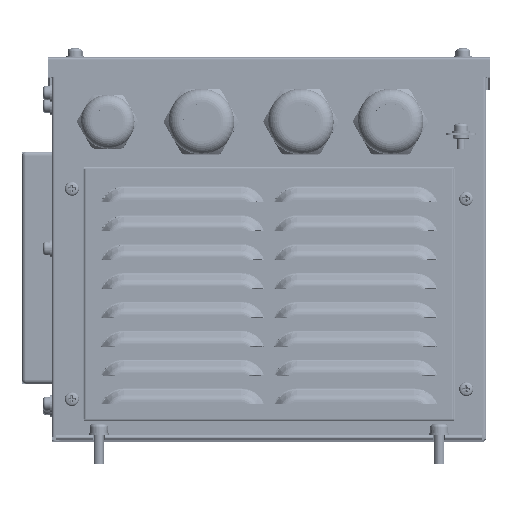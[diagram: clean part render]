
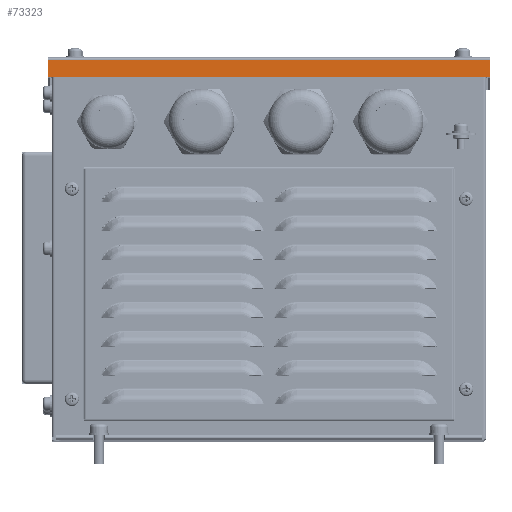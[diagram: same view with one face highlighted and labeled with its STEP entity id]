
A CAD part, top view. The second image highlights one B-rep face of the part: STEP entity #73323.
In plain terms, the highlighted planar face has unit normal (0, 0, 1).
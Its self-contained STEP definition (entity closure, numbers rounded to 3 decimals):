
#11427=FACE_OUTER_BOUND('',#15428,.T.);
#15428=EDGE_LOOP('',(#55516,#55517,#55518,#55519));
#20678=LINE('',#106873,#27621);
#20681=LINE('',#106878,#27624);
#20682=LINE('',#106880,#27625);
#20683=LINE('',#106881,#27626);
#27621=VECTOR('',#88221,8.8);
#27624=VECTOR('',#88226,222.);
#27625=VECTOR('',#88227,8.8);
#27626=VECTOR('',#88228,222.);
#36253=VERTEX_POINT('',#106871);
#36254=VERTEX_POINT('',#106872);
#36255=VERTEX_POINT('',#106877);
#36256=VERTEX_POINT('',#106879);
#43343=EDGE_CURVE('',#36253,#36254,#20678,.T.);
#43346=EDGE_CURVE('',#36254,#36255,#20681,.T.);
#43347=EDGE_CURVE('',#36255,#36256,#20682,.T.);
#43348=EDGE_CURVE('',#36256,#36253,#20683,.T.);
#55516=ORIENTED_EDGE('',*,*,#43343,.T.);
#55517=ORIENTED_EDGE('',*,*,#43346,.T.);
#55518=ORIENTED_EDGE('',*,*,#43347,.T.);
#55519=ORIENTED_EDGE('',*,*,#43348,.T.);
#70719=PLANE('',#78885);
#73323=ADVANCED_FACE('',(#11427),#70719,.T.);
#78885=AXIS2_PLACEMENT_3D('',#106876,#88224,#88225);
#88221=DIRECTION('',(0.,-1.,0.));
#88224=DIRECTION('center_axis',(0.,0.,1.));
#88225=DIRECTION('ref_axis',(-1.,0.,0.));
#88226=DIRECTION('',(1.,0.,0.));
#88227=DIRECTION('',(0.,1.,0.));
#88228=DIRECTION('',(-1.,0.,0.));
#106871=CARTESIAN_POINT('',(-137.,174.6,260.));
#106872=CARTESIAN_POINT('',(-137.,165.8,260.));
#106873=CARTESIAN_POINT('',(-137.,174.6,260.));
#106876=CARTESIAN_POINT('Origin',(-137.,175.8,260.));
#106877=CARTESIAN_POINT('',(85.,165.8,260.));
#106878=CARTESIAN_POINT('',(-137.,165.8,260.));
#106879=CARTESIAN_POINT('',(85.,174.6,260.));
#106880=CARTESIAN_POINT('',(85.,165.8,260.));
#106881=CARTESIAN_POINT('',(85.,174.6,260.));
